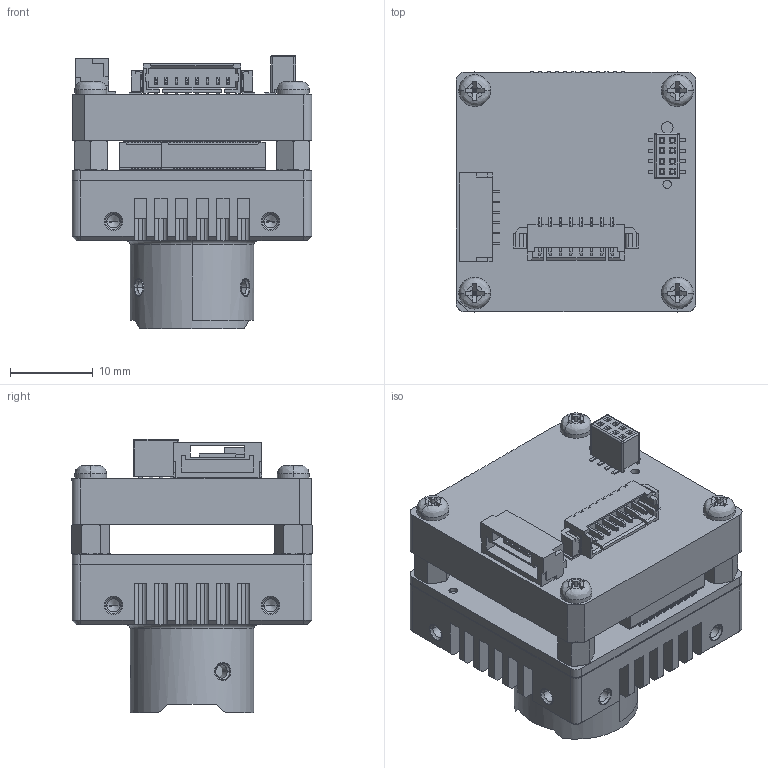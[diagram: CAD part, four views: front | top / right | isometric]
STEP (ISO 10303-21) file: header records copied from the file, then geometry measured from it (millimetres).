
FILE_DESCRIPTION((''),'2;1');
FILE_NAME('000-CB060-ALL0001_ASM_ASM','2021-01-26T14:59:29',('fangguihua'),(''),'CREO PARAMETRIC BY PTC INC, 2017260','CREO PARAMETRIC BY PTC INC, 2017260','');
FILE_SCHEMA(('CONFIG_CONTROL_DESIGN'));
Products named in the file (1): 000-CB060-ALL0001_ASM_ASM
Bounding box: 29 x 29.12 x 33.1 mm (x, y, z)
Volume: 10372.1 mm3; surface area: 12079.6 mm2
Topology: 1 solids, 49 shells, 5567 faces, 16632 edges, 10943 vertices
Faces by surface type: plane 3618, cylinder 1711, cone 136, bspline 64, torus 34, sphere 4
Entity records: 190228 total; most frequent: CARTESIAN_POINT 36986, ORIENTED_EDGE 33026, DIRECTION 30682, EDGE_CURVE 16588, VECTOR 12630, LINE 12630, VERTEX_POINT 10943, AXIS2_PLACEMENT_3D 9026
